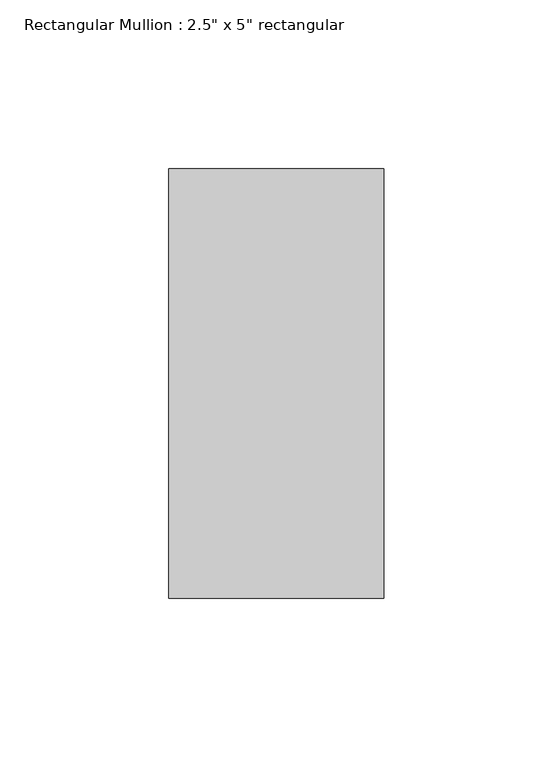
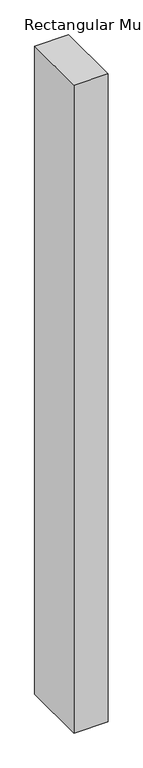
"""IFC4 building model written with IfcOpenShell, lengths in millimetres: member geometry."""

import ifcopenshell
import ifcopenshell.guid

model = None  # the IFC model being written
_history = None  # IfcOwnerHistory: only IFC2X3 demands one
_inside = {}  # id of a spatial element -> (the spatial element, [elements in it])
_under = {}  # id of a project, library or spatial element -> (it, [spatial elements below it])
_declared = {}  # id of a project -> (the project, [libraries it declares])
_typed = {}  # id of a type object -> (the type object, [elements of that type])
_made_of = {}  # id of a material, layer set ... -> (it, [elements and type objects made of it])


def new_model(schema):
    """Start an empty IFC model of exactly this schema.

    Asked for "IFC4X3", IfcOpenShell would pick the latest addendum, in which some entities
    have other attributes; the version numbers below select the first issue.
    IFC2X3 requires an IfcOwnerHistory on every rooted entity: one is made here for all.
    """
    global model, _history
    if schema == "IFC4X3":
        model = ifcopenshell.file(schema_version=(4, 3, 0, 0))
    else:
        model = ifcopenshell.file(schema=schema)
    _inside.clear()
    _under.clear()
    _declared.clear()
    _typed.clear()
    _made_of.clear()
    _history = None
    if model.schema == "IFC2X3":
        org = make("IfcOrganization", Name="unknown")
        user = make(
            "IfcPersonAndOrganization",
            ThePerson=make("IfcPerson", FamilyName="unknown"),
            TheOrganization=org,
        )
        app = make(
            "IfcApplication",
            ApplicationDeveloper=org,
            Version="unknown",
            ApplicationFullName="unknown",
            ApplicationIdentifier="unknown",
        )
        _history = make(
            "IfcOwnerHistory",
            OwningUser=user,
            OwningApplication=app,
            ChangeAction="ADDED",
            CreationDate=0,
        )
    return model


def make(cls, **values):
    """One entity of the class cls with the attributes given. An attribute that is None is left unset."""
    return model.create_entity(
        cls, **{name: value for name, value in values.items() if value is not None}
    )


def rooted(cls, **values):
    """An entity with a GlobalId (a new one), such as an element, a storey or a relation."""
    return make(cls, GlobalId=ifcopenshell.guid.new(), OwnerHistory=_history, **values)


def si_unit(unit_type, name, prefix=None):
    """IfcSIUnit, for example si_unit("LENGTHUNIT", "METRE", prefix="MILLI")."""
    return make("IfcSIUnit", UnitType=unit_type, Prefix=prefix, Name=name)


def assignment(units):
    """IfcUnitAssignment: the units of a project."""
    return None if units is None else make("IfcUnitAssignment", Units=units)


def point(xyz):
    """IfcCartesianPoint."""
    return None if xyz is None else make("IfcCartesianPoint", Coordinates=xyz)


def direction(xyz):
    """IfcDirection."""
    return None if xyz is None else make("IfcDirection", DirectionRatios=xyz)


def frame(location, z_axis=None, x_axis=None):
    """IfcAxis2Placement3D, a coordinate frame: its origin and axes. An axis left out is left unset."""
    return make(
        "IfcAxis2Placement3D",
        Location=point(location),
        Axis=direction(z_axis),
        RefDirection=direction(x_axis),
    )


def origin():
    """The frame at (0, 0, 0) with its axes left unset."""
    return frame((0.0, 0.0, 0.0))


def place(relative_to, where):
    """IfcLocalPlacement: puts the frame where relative to a parent placement (None: the world)."""
    return make(
        "IfcLocalPlacement", PlacementRelTo=relative_to, RelativePlacement=where
    )


def context(
    kind, dimensions, precision=None, world=None, true_north=None, identifier=None
):
    """IfcGeometricRepresentationContext, for example the 3D "Model" context."""
    return make(
        "IfcGeometricRepresentationContext",
        ContextIdentifier=identifier,
        ContextType=kind,
        CoordinateSpaceDimension=dimensions,
        Precision=precision,
        WorldCoordinateSystem=world,
        TrueNorth=true_north,
    )


def project(units=None, contexts=None):
    """IfcProject with its units and contexts."""
    return rooted(
        "IfcProject",
        Name="project",
        RepresentationContexts=contexts,
        UnitsInContext=assignment(units),
    )


def spatial(cls, under=None, at=None, **own):
    """A site, building, storey or space (cls), placed at a placement, below another one or the project."""
    s = rooted(cls, ObjectPlacement=at, **own)
    if under is not None:
        _under.setdefault(under.id(), (under, []))[1].append(s)
    return s


def polyline(points):
    """IfcPolyline through the points."""
    return make("IfcPolyline", Points=[point(p) for p in points])


def outline(outer, holes=None, kind="AREA"):
    """IfcArbitraryClosedProfileDef: a profile drawn as a closed curve; with holes, ...WithVoids."""
    if holes is None:
        return make("IfcArbitraryClosedProfileDef", ProfileType=kind, OuterCurve=outer)
    return make(
        "IfcArbitraryProfileDefWithVoids",
        ProfileType=kind,
        OuterCurve=outer,
        InnerCurves=holes,
    )


def extrude(swept, where, along, depth):
    """IfcExtrudedAreaSolid: the profile swept, set in the frame where, extruded along a direction by depth."""
    return make(
        "IfcExtrudedAreaSolid",
        SweptArea=swept,
        Position=where,
        ExtrudedDirection=direction(along),
        Depth=depth,
    )


def shape(context_of_items, identifier, shape_type, items):
    """IfcShapeRepresentation: the items that make up one representation, for example the "Body"."""
    return make(
        "IfcShapeRepresentation",
        ContextOfItems=context_of_items,
        RepresentationIdentifier=identifier,
        RepresentationType=shape_type,
        Items=items,
    )


def source(mapping_origin, context_of_items, identifier, shape_type, items):
    """IfcRepresentationMap: a shape defined once, which mapped items show again and again."""
    return make(
        "IfcRepresentationMap",
        MappingOrigin=mapping_origin,
        MappedRepresentation=shape(context_of_items, identifier, shape_type, items),
    )


def transform(
    local_origin,
    x_axis=None,
    y_axis=None,
    z_axis=None,
    scale=None,
    scale2=None,
    scale3=None,
    uniform=True,
):
    """IfcCartesianTransformationOperator3D, or its non-uniform kind. x_axis, y_axis, z_axis: its Axis1, 2, 3."""
    if uniform:
        return make(
            "IfcCartesianTransformationOperator3D",
            Axis1=direction(x_axis),
            Axis2=direction(y_axis),
            LocalOrigin=point(local_origin),
            Scale=scale,
            Axis3=direction(z_axis),
        )
    return make(
        "IfcCartesianTransformationOperator3DnonUniform",
        Axis1=direction(x_axis),
        Axis2=direction(y_axis),
        LocalOrigin=point(local_origin),
        Scale=scale,
        Axis3=direction(z_axis),
        Scale2=scale2,
        Scale3=scale3,
    )


def mapped(mapping_source, mapping_target):
    """IfcMappedItem: shows the shape of a source again, moved by a transform."""
    return make(
        "IfcMappedItem", MappingSource=mapping_source, MappingTarget=mapping_target
    )


def made_of(thing, what):
    """Note that an element or type object is made of a material, layer set ...; save() writes the relation."""
    if what is not None:
        _made_of.setdefault(what.id(), (what, []))[1].append(thing)
    return thing


def element(
    cls,
    number,
    at=None,
    inside=None,
    cuts=None,
    type_object=None,
    material=None,
    context=None,
    identifier="Body",
    shape_type=None,
    held_by="IfcProductDefinitionShape",
    body=None,
    shapes=None,
    **own,
):
    """One element of the class cls, such as IfcWall. Its Tag is "e" and its number.

    at: its placement. inside: the storey or other place that contains it. cuts: it is an
    opening in that element (IfcRelVoidsElement). A single representation is given by context,
    identifier, shape_type and body (its items); several are given by shapes. held_by: the class
    of the entity that holds the representations. save() writes the other relations.
    """
    e = rooted(cls, Tag="e%d" % number, ObjectPlacement=at, **own)
    if body is not None:
        shapes = [shape(context, identifier, shape_type, body)]
    if shapes is not None:
        e.Representation = make(held_by, Representations=shapes)
    if inside is not None:
        _inside.setdefault(inside.id(), (inside, []))[1].append(e)
    if cuts is not None:
        rooted(
            "IfcRelVoidsElement", RelatingBuildingElement=cuts, RelatedOpeningElement=e
        )
    if type_object is not None:
        _typed.setdefault(type_object.id(), (type_object, []))[1].append(e)
    return made_of(e, material)


def aggregate(whole, parts):
    """IfcRelAggregates: a whole, such as a stair, and the parts it consists of."""
    return rooted("IfcRelAggregates", RelatingObject=whole, RelatedObjects=parts)


def save(model, path):
    """Write the relations noted so far, then the file.

    IfcRelAggregates (storeys below a building ...), IfcRelContainedInSpatialStructure (elements
    in a storey), IfcRelDefinesByType, IfcRelAssociatesMaterial and IfcRelDeclares: one each for
    every whole, place, type object, material and project.
    """
    for whole, parts in _under.values():
        aggregate(whole, parts)
    for where, things in _inside.values():
        rooted(
            "IfcRelContainedInSpatialStructure",
            RelatedElements=things,
            RelatingStructure=where,
        )
    for kind, things in _typed.values():
        rooted("IfcRelDefinesByType", RelatedObjects=things, RelatingType=kind)
    for what, things in _made_of.values():
        rooted("IfcRelAssociatesMaterial", RelatedObjects=things, RelatingMaterial=what)
    for by, libraries in _declared.values():
        rooted("IfcRelDeclares", RelatingContext=by, RelatedDefinitions=libraries)
    model.write(path)


def member_ace9393b(model_context):
    return source(origin(), model_context, "Body", "SweptSolid", [
        extrude(outline(polyline([(0.0, 63.5), (0.0, -63.5), (-63.5, -63.5), (-63.5, 63.5), (0.0, 63.5)])), frame((0.0, 0.0, -1276.3500001), z_axis=(0.0, 0.0, 1.0), x_axis=(1.0, 0.0, 0.0)), (0.0, 0.0, 1.0), 1276.3500001),
    ])


if __name__ == "__main__":
    model = new_model("IFC4")
    model_context = context("Model", 3, world=origin())
    ifc_project = project(units=[si_unit("LENGTHUNIT", "METRE", prefix="MILLI")], contexts=[model_context])
    site = spatial("IfcSite", under=ifc_project)
    building = spatial("IfcBuilding", under=site)
    placement = place(None, origin())
    member_shape = member_ace9393b(model_context)
    element("IfcMember", 1, ObjectType="Rectangular Mullion : 2.5\" x 5\" rectangular", at=placement, inside=building, context=model_context, shape_type="MappedRepresentation", body=[
        mapped(member_shape, transform((0.0, 0.0, 0.0), x_axis=(1.0, 0.0, 0.0), y_axis=(0.0, 1.0, 0.0), z_axis=(0.0, 0.0, 1.0))),
    ])
    save(model, "model.ifc")
